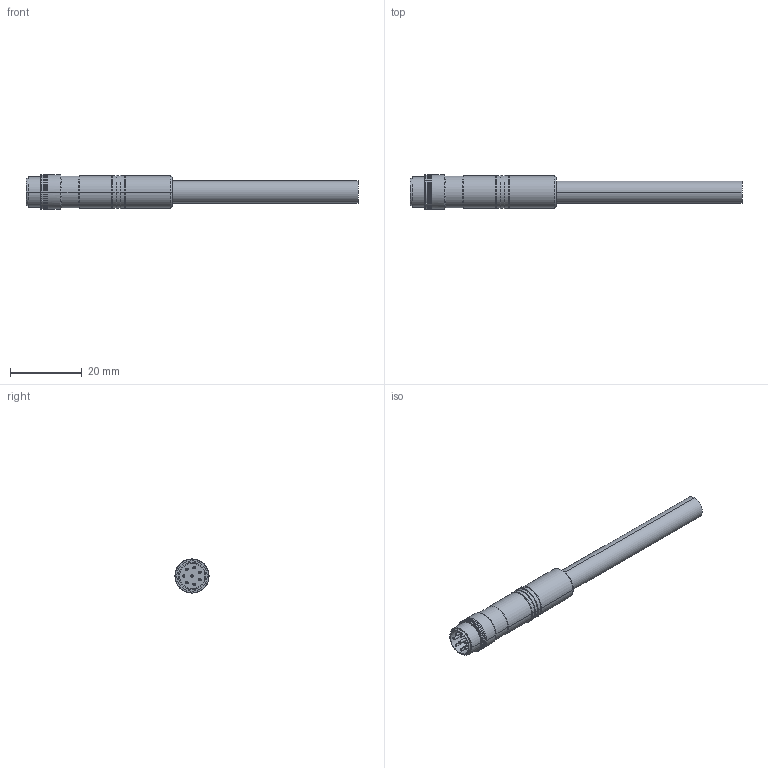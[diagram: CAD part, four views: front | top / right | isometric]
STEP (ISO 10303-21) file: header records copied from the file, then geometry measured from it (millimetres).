
FILE_DESCRIPTION (( 'STEP AP203' ), '1' );
FILE_NAME ('EFFC-CAB-M8-M-8.STEP', '2021-09-10T12:08:44', ( '' ), ( '' ), 'SwSTEP 2.0', 'SolidWorks 2021', '' );
FILE_SCHEMA (( 'CONFIG_CONTROL_DESIGN' ));
Length unit declared in the file: millimetre
Products named in the file (1): EFFC-CAB-M8-M-8
Bounding box: 92.67 x 9.5 x 9.5 mm (x, y, z)
Volume: 3943.7 mm3; surface area: 2588.5 mm2
Topology: 1 solids, 1 shells, 294 faces, 790 edges, 518 vertices
Faces by surface type: plane 226, cylinder 46, cone 20, torus 2
Entity records: 9257 total; most frequent: CARTESIAN_POINT 1603, DIRECTION 1594, ORIENTED_EDGE 1580, EDGE_CURVE 790, VECTOR 576, LINE 576, VERTEX_POINT 518, AXIS2_PLACEMENT_3D 509
